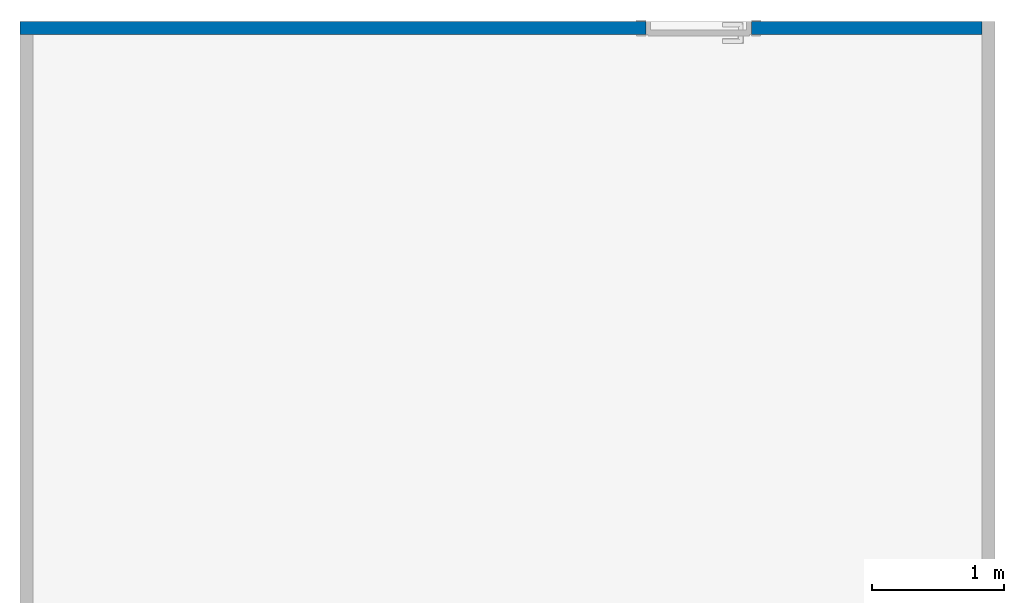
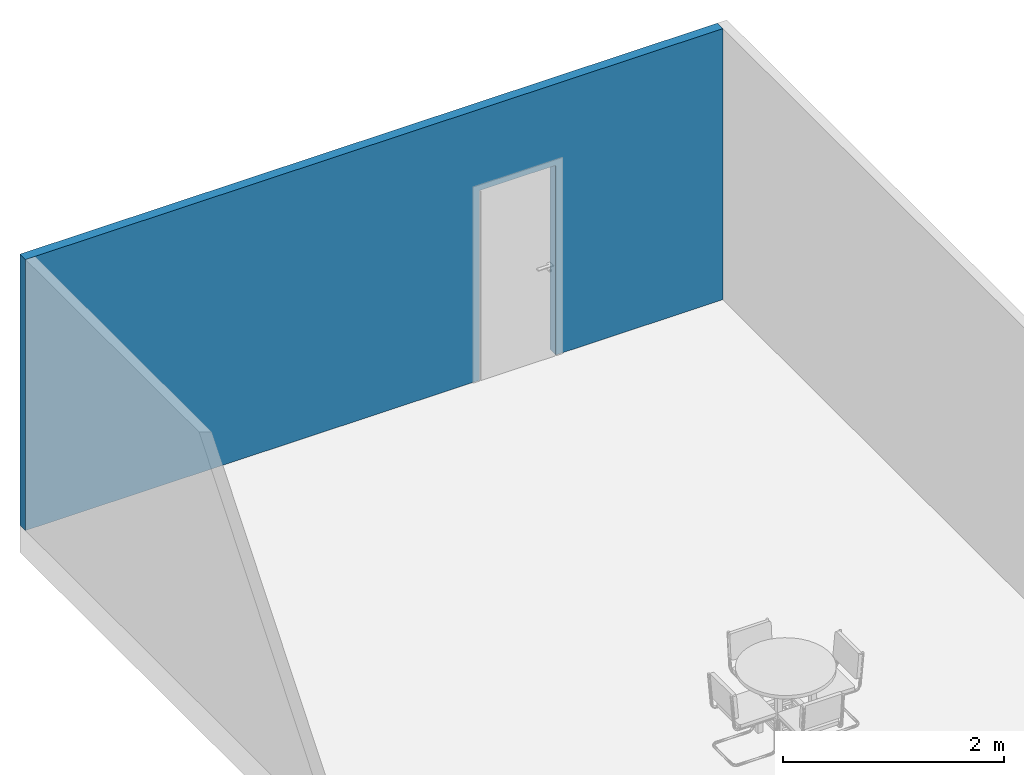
# One storey, part 4 of 11: 1 wall, 1 opening.
"""IFC2X3 building model written with IfcOpenShell, lengths in metres."""

from ifc_helpers import new_model, entity, si_unit, converted_unit, derived_unit, direction, frame, frame_2d, origin, place, context, subcontext, project, spatial, rectangle, extrude, material, layer, layer_set, layer_usage, type_object, element, save


model = new_model("IFC2X3")

# Units and contexts
model_context = context("Model", 3, precision=1e-05, world=origin(), true_north=direction((6.12303176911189e-17, 1.0)))
body_context = subcontext(model_context, "Body", "Model", "MODEL_VIEW")
ifc_project = project(units=[si_unit("LENGTHUNIT", "METRE"), si_unit("AREAUNIT", "SQUARE_METRE"), si_unit("VOLUMEUNIT", "CUBIC_METRE"), converted_unit("PLANEANGLEUNIT", "DEGREE", entity("IfcRatioMeasure", 0.0174532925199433), si_unit("PLANEANGLEUNIT", "RADIAN"), dimensions=[0, 0, 0, 0, 0, 0, 0]), si_unit("MASSUNIT", "GRAM", prefix="KILO"), derived_unit("MASSDENSITYUNIT", [(si_unit("MASSUNIT", "GRAM", prefix="KILO"), 1), (si_unit("LENGTHUNIT", "METRE"), -3)]), derived_unit("MOMENTOFINERTIAUNIT", [(si_unit("LENGTHUNIT", "METRE"), 4)]), si_unit("TIMEUNIT", "SECOND"), si_unit("FREQUENCYUNIT", "HERTZ"), si_unit("THERMODYNAMICTEMPERATUREUNIT", "DEGREE_CELSIUS"), derived_unit("THERMALTRANSMITTANCEUNIT", [(si_unit("MASSUNIT", "GRAM", prefix="KILO"), 1), (si_unit("THERMODYNAMICTEMPERATUREUNIT", "KELVIN"), -1), (si_unit("TIMEUNIT", "SECOND"), -3)]), derived_unit("VOLUMETRICFLOWRATEUNIT", [(si_unit("LENGTHUNIT", "METRE"), 3), (si_unit("TIMEUNIT", "SECOND"), -1)]), si_unit("ELECTRICCURRENTUNIT", "AMPERE"), si_unit("ELECTRICVOLTAGEUNIT", "VOLT"), si_unit("POWERUNIT", "WATT"), si_unit("FORCEUNIT", "NEWTON", prefix="KILO"), si_unit("ILLUMINANCEUNIT", "LUX"), si_unit("LUMINOUSFLUXUNIT", "LUMEN"), si_unit("LUMINOUSINTENSITYUNIT", "CANDELA"), derived_unit("USERDEFINED", [(si_unit("MASSUNIT", "GRAM", prefix="KILO"), -1), (si_unit("LENGTHUNIT", "METRE"), -2), (si_unit("TIMEUNIT", "SECOND"), 3), (si_unit("LUMINOUSFLUXUNIT", "LUMEN"), 1)]), derived_unit("LINEARVELOCITYUNIT", [(si_unit("LENGTHUNIT", "METRE"), 1), (si_unit("TIMEUNIT", "SECOND"), -1)]), si_unit("PRESSUREUNIT", "PASCAL"), derived_unit("USERDEFINED", [(si_unit("LENGTHUNIT", "METRE"), -2), (si_unit("MASSUNIT", "GRAM", prefix="KILO"), 1), (si_unit("TIMEUNIT", "SECOND"), -2)]), derived_unit("LINEARFORCEUNIT", [(si_unit("MASSUNIT", "GRAM", prefix="KILO"), 1), (si_unit("LENGTHUNIT", "METRE"), 1), (si_unit("TIMEUNIT", "SECOND"), -2), (si_unit("LENGTHUNIT", "METRE"), -1)]), derived_unit("PLANARFORCEUNIT", [(si_unit("MASSUNIT", "GRAM", prefix="KILO"), 1), (si_unit("LENGTHUNIT", "METRE"), 1), (si_unit("TIMEUNIT", "SECOND"), -2), (si_unit("LENGTHUNIT", "METRE"), -2)])], contexts=[model_context])

# Site, building, storey
site_placement = place(None, origin())
site = spatial("IfcSite", under=ifc_project, at=site_placement, Name="Default", CompositionType="ELEMENT")
building_placement = place(site_placement, origin())
building = spatial("IfcBuilding", under=site, at=building_placement, CompositionType="ELEMENT")
storey_placement = place(building_placement, origin())
storey = spatial("IfcBuildingStorey", under=building, at=storey_placement, Name="Nivel 1", CompositionType="ELEMENT", Elevation=0.0)

# Wall, opening
ifc_material_1 = material(Name="Enlucido - Blanco")
ifc_layer_1 = layer(ifc_material_1, 0.015)
ifc_material_2 = material(Name="Ladrillo de cerámica hueco doble")
ifc_layer_2 = layer(ifc_material_2, 0.07)
ifc_layer_3 = layer(ifc_material_1, 0.015)
ifc_layer_set = layer_set([ifc_layer_1, ifc_layer_2, ifc_layer_3], Name="Muro básico:Partición con capa de yeso")
ifc_layer_usage = layer_usage(ifc_layer_set, "AXIS2", "NEGATIVE", 0.05)
wall_type = type_object("IfcWallType", Name="Muro básico:Partición con capa de yeso", PredefinedType="STANDARD", material=ifc_layer_set)
wall_placement = place(storey_placement, frame((-4.1830431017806, 9.33498292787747, 0.0)))
wall = element("IfcWallStandardCase", 1, at=wall_placement, inside=storey, type_object=wall_type, material=ifc_layer_usage, Name="Muro básico:Partición con capa de yeso", ObjectType="Muro básico:Partición con capa de yeso", context=body_context, shape_type="SweptSolid", body=[
    extrude(rectangle(XDim=7.3, YDim=0.100000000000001, at=frame_2d((3.65, 2.1163626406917e-16), x_axis=(-1.0, 0.0))), origin(), (0.0, 0.0, 1.0), 3.0),
])
opening_placement = place(wall_placement, frame((5.55, 0.0499999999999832, 0.0)))
element("IfcOpeningElement", 2, at=opening_placement, cuts=wall, Name="Puerta de 1 hoja:80 x 210 cm:1", ObjectType="Opening", context=body_context, shape_type="SweptSolid", body=[
    extrude(rectangle(XDim=2.09999999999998, YDim=0.8, at=frame_2d((1.04999999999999, 0.4), x_axis=(1.0, 0.0))), frame((0.0, 0.0, 0.0), z_axis=(0.0, -1.0, 0.0), x_axis=(0.0, 0.0, 1.0)), (0.0, 0.0, 1.0), 0.1),
])

save(model, "model.ifc")
